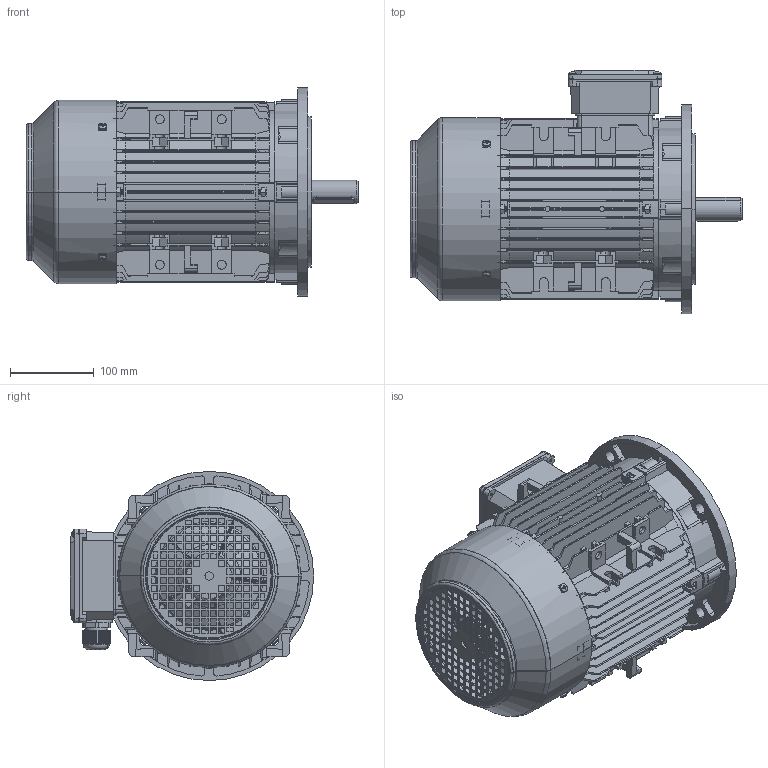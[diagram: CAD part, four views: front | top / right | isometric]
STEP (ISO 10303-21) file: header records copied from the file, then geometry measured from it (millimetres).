
FILE_DESCRIPTION (( 'STEP AP203' ), '1' );
FILE_NAME ('T112 B5(·½).STEP', '2015-04-27T00:55:04', ( 'USER' ), ( 'MS' ), 'SwSTEP 2.0', 'SolidWorks 2008', '' );
FILE_SCHEMA (( 'CONFIG_CONTROL_DESIGN' ));
Length unit declared in the file: millimetre
Products named in the file (14): MS112 风叶_默认; T112转轴_默认; T112 B5(源); Plain parallel keys_GB_CONNECTING_PIECE_KEYS_CSK 8X50; TA112B5法兰1_默认; 112-132出线螺套_默认; Cross recessed thread forming screws GB_GB_CROSS_SCREWS_TYPE138 M5X12-N; T112机壳_默认; TA112后盖1_默认; TA112风罩_默认; Hexagon nuts grade C GB_GB_FASTENER_NUT_SNC1 M6-N; Hexagon socket head cap screws GB_GB_FASTENER_SCREWS_HSHCS M6X30-N; MS132接线盒座_默认; MS132接线盒盖_默认
Assembly tree (35 placements, depth 2):
  T112 B5(源)
    Cross recessed thread forming screws GB_GB_CROSS_SCREWS_TYPE138 M5X12-N  x8
    T112机壳_默认
    Hexagon nuts grade C GB_GB_FASTENER_NUT_SNC1 M6-N  x8
    Hexagon socket head cap screws GB_GB_FASTENER_SCREWS_HSHCS M6X30-N  x8
    TA112后盖1_默认
    T112转轴_默认
    MS132接线盒盖_默认
    TA112B5法兰1_默认
    112-132出线螺套_默认  x2
    Plain parallel keys_GB_CONNECTING_PIECE_KEYS_CSK 8X50
    MS112 风叶_默认
    MS132接线盒座_默认
    TA112风罩_默认
Bounding box: 397 x 291 x 250 mm (x, y, z)
Volume: 2277475.2 mm3; surface area: 1238804.1 mm2
Topology: 35 solids, 35 shells, 4046 faces, 11133 edges, 7248 vertices
Faces by surface type: plane 2625, cylinder 965, cone 262, torus 128, sphere 56, bspline 10
Entity records: 115456 total; most frequent: CARTESIAN_POINT 27787, ORIENTED_EDGE 18702, DIRECTION 16683, EDGE_CURVE 9351, VECTOR 6177, LINE 6177, VERTEX_POINT 6113, AXIS2_PLACEMENT_3D 5253
